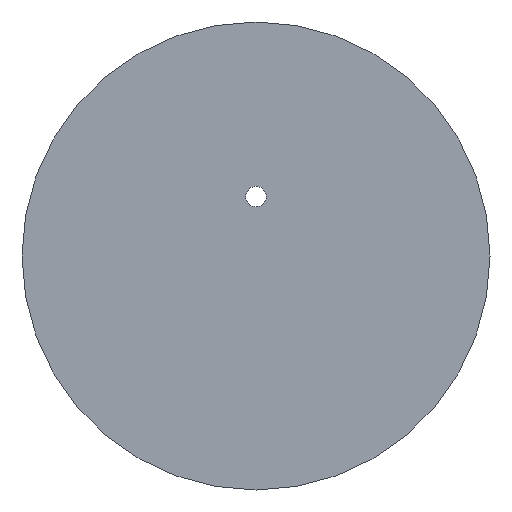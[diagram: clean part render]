
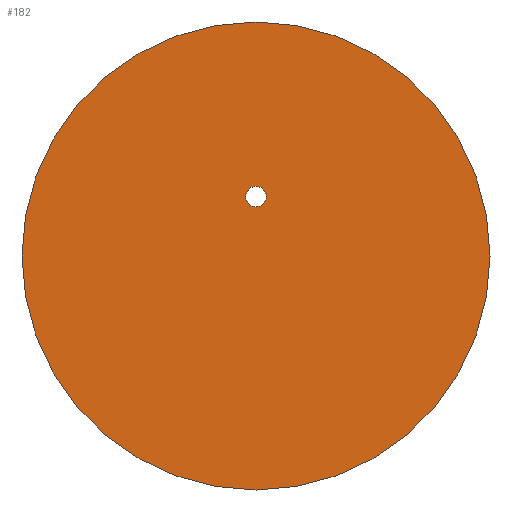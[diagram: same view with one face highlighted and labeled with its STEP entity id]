
A CAD part, left-side view. The second image highlights one B-rep face of the part: STEP entity #182.
In plain terms, the highlighted planar face has unit normal (-1, 0, 0).
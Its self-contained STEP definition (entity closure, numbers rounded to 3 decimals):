
#123=CARTESIAN_POINT('',(-1.9,0.,19.5));
#124=VERTEX_POINT('',#123);
#131=CARTESIAN_POINT('',(-1.9,0.,0.));
#132=DIRECTION('',(-0.,-0.,1.));
#133=DIRECTION('',(1.,0.,0.));
#134=AXIS2_PLACEMENT_3D('',#131,#133,#132);
#135=CIRCLE('',#134,19.5);
#136=EDGE_CURVE('',#124,#124,#135,.T.);
#163=CARTESIAN_POINT('',(-1.9,0.,0.));
#164=DIRECTION('',(0.,0.,1.));
#165=DIRECTION('',(-1.,0.,0.));
#166=AXIS2_PLACEMENT_3D('',#163,#165,#164);
#167=PLANE('',#166);
#168=ORIENTED_EDGE('',*,*,#136,.F.);
#169=EDGE_LOOP('',(#168));
#170=FACE_OUTER_BOUND('',#169,.T.);
#171=CARTESIAN_POINT('',(-1.9,0.,5.8));
#172=VERTEX_POINT('',#171);
#173=CARTESIAN_POINT('',(-1.9,0.,4.95));
#174=DIRECTION('',(-0.,-0.,1.));
#175=DIRECTION('',(1.,0.,0.));
#176=AXIS2_PLACEMENT_3D('',#173,#175,#174);
#177=CIRCLE('',#176,0.85);
#178=EDGE_CURVE('',#172,#172,#177,.T.);
#179=ORIENTED_EDGE('E11',*,*,#178,.T.);
#180=EDGE_LOOP('',(#179));
#181=FACE_BOUND('',#180,.T.);
#182=ADVANCED_FACE('F13',(#170,#181),#167,.T.);
